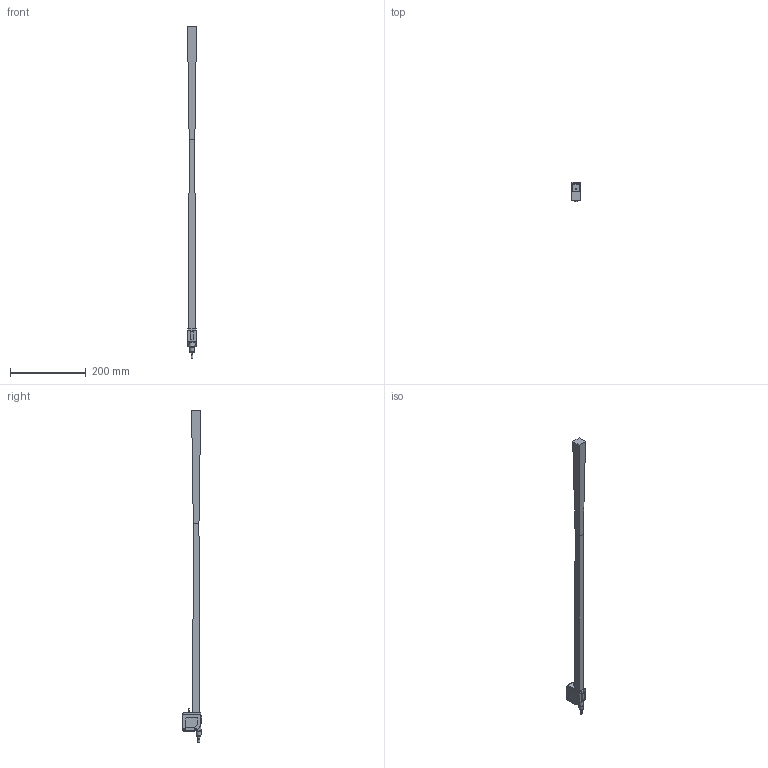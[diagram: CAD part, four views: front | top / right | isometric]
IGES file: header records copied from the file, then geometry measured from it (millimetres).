
Global section: file name: 623-11014_FT 55B-RH-PS-K4; native system: Autodesk Inventor 2022; preprocessor: unknown; author: Sandra.Stahl; date: 20230126.000120; units: millimetre
Bounding box: 24 x 51 x 877.3 mm (x, y, z)
Volume: 306031.4 mm3; surface area: 68445.9 mm2
Topology: 5 solids, 5 shells, 236 faces, 573 edges, 357 vertices
Faces by surface type: bspline 236
